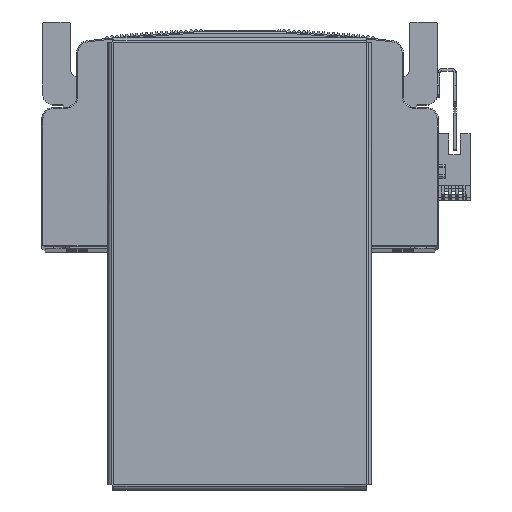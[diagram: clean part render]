
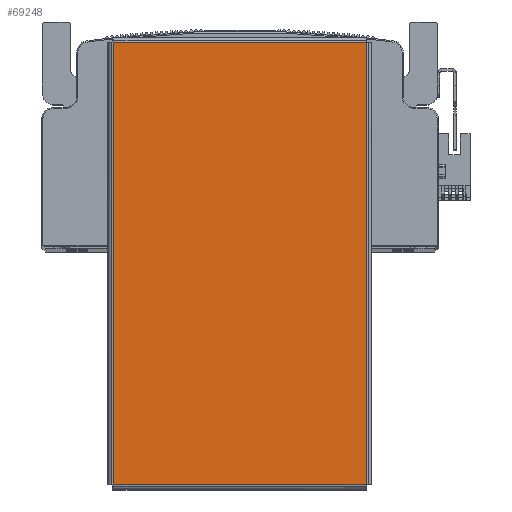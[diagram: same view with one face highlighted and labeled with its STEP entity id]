
A CAD part, top view. The second image highlights one B-rep face of the part: STEP entity #69248.
In plain terms, the highlighted planar face has unit normal (0, 0, 1) as drawn and (0, -1, 0) by its records, which use the part's own axes.
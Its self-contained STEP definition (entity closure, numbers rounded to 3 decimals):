
#2463 = LINE ( 'NONE', #3145, #2543 ) ;
#2543 = VECTOR ( 'NONE', #3140, 1000. ) ;
#3140 = DIRECTION ( 'NONE',  ( 1., 0., 0. ) ) ;
#3145 = CARTESIAN_POINT ( 'NONE',  ( -94.793, -1.5, -54.363 ) ) ;
#3253 = CARTESIAN_POINT ( 'NONE',  ( 94.793, -1.5, 54.363 ) ) ;
#3269 = DIRECTION ( 'NONE',  ( -1., 0., 0. ) ) ;
#3361 = CARTESIAN_POINT ( 'NONE',  ( 94.763, -1.5, -54.393 ) ) ;
#3372 = DIRECTION ( 'NONE',  ( 0., 0., 1. ) ) ;
#3425 = DIRECTION ( 'NONE',  ( 0., 0., -1. ) ) ;
#3463 = CARTESIAN_POINT ( 'NONE',  ( -94.763, -1.5, 54.393 ) ) ;
#19796 = DIRECTION ( 'NONE',  ( 0., 1., 0. ) ) ;
#19813 = CARTESIAN_POINT ( 'NONE',  ( 0., -1.5, 0. ) ) ;
#19862 = DIRECTION ( 'NONE',  ( 0., 0., 1. ) ) ;
#19876 = PLANE ( 'NONE',  #41667 ) ;
#21916 = FACE_OUTER_BOUND ( 'NONE', #30831, .T. ) ;
#25423 = ORIENTED_EDGE ( 'NONE', *, *, #35795, .T. ) ;
#25467 = ORIENTED_EDGE ( 'NONE', *, *, #35904, .T. ) ;
#25518 = ORIENTED_EDGE ( 'NONE', *, *, #35849, .T. ) ;
#25519 = ORIENTED_EDGE ( 'NONE', *, *, #35883, .T. ) ;
#30831 = EDGE_LOOP ( 'NONE', ( #25518, #25467, #25423, #25519 ) ) ;
#35795 = EDGE_CURVE ( 'NONE', #55350, #55407, #2463, .T. ) ;
#35849 = EDGE_CURVE ( 'NONE', #55364, #55384, #69460, .T. ) ;
#35883 = EDGE_CURVE ( 'NONE', #55407, #55364, #69500, .T. ) ;
#35904 = EDGE_CURVE ( 'NONE', #55384, #55350, #69503, .T. ) ;
#41667 = AXIS2_PLACEMENT_3D ( 'NONE', #19813, #19796, #19862 ) ;
#55350 = VERTEX_POINT ( 'NONE', #64772 ) ;
#55364 = VERTEX_POINT ( 'NONE', #64751 ) ;
#55384 = VERTEX_POINT ( 'NONE', #64818 ) ;
#55407 = VERTEX_POINT ( 'NONE', #64864 ) ;
#64751 = CARTESIAN_POINT ( 'NONE',  ( 94.763, -1.5, 54.363 ) ) ;
#64772 = CARTESIAN_POINT ( 'NONE',  ( -94.763, -1.5, -54.363 ) ) ;
#64818 = CARTESIAN_POINT ( 'NONE',  ( -94.763, -1.5, 54.363 ) ) ;
#64864 = CARTESIAN_POINT ( 'NONE',  ( 94.763, -1.5, -54.363 ) ) ;
#69248 = ADVANCED_FACE ( 'NONE', ( #21916 ), #19876, .F. ) ;
#69460 = LINE ( 'NONE', #3253, #69461 ) ;
#69461 = VECTOR ( 'NONE', #3269, 1000. ) ;
#69500 = LINE ( 'NONE', #3361, #69521 ) ;
#69503 = LINE ( 'NONE', #3463, #69544 ) ;
#69521 = VECTOR ( 'NONE', #3372, 1000. ) ;
#69544 = VECTOR ( 'NONE', #3425, 1000. ) ;
